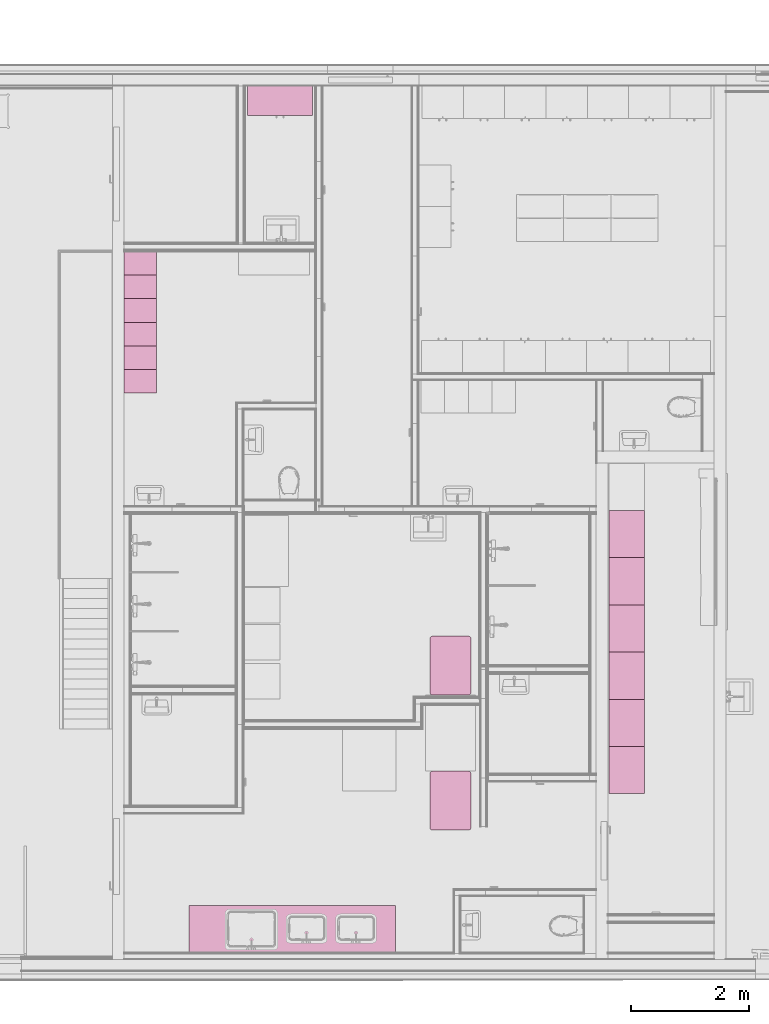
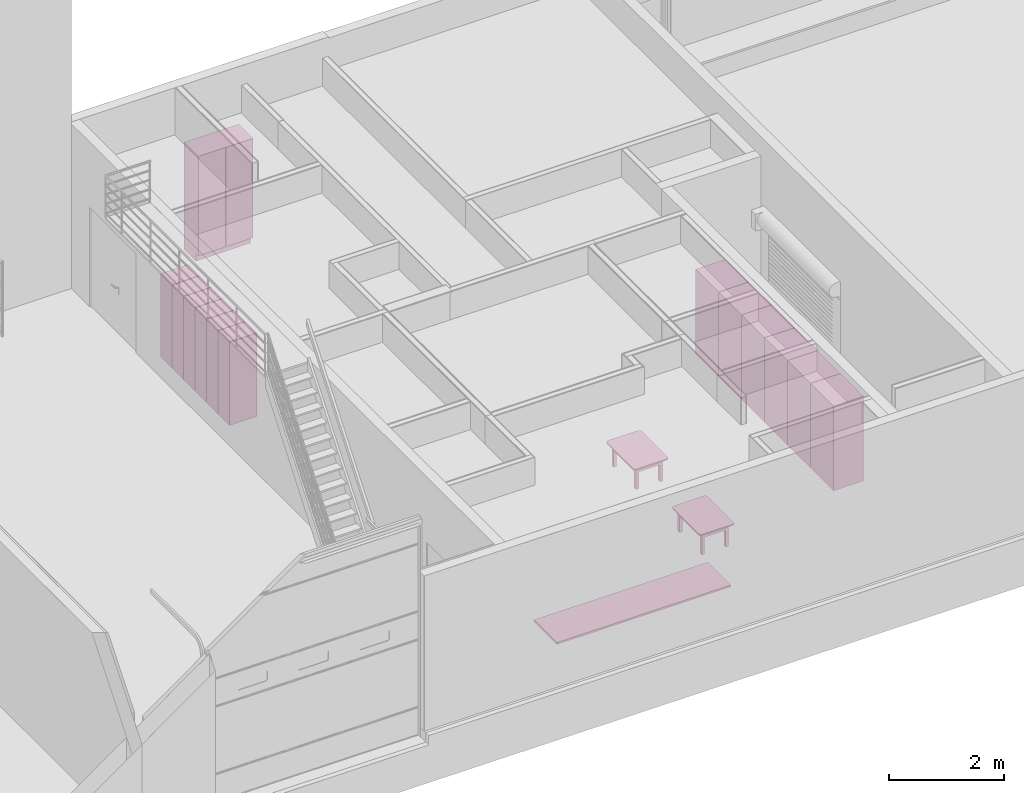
# One storey, part 32 of 67: 16 furniture elements.
"""IFC4 building model written with IfcOpenShell, lengths in millimetres."""

import ifcopenshell
import ifcopenshell.guid

model = None  # the IFC model being written
_history = None  # IfcOwnerHistory: only IFC2X3 demands one
_inside = {}  # id of a spatial element -> (the spatial element, [elements in it])
_under = {}  # id of a project, library or spatial element -> (it, [spatial elements below it])
_declared = {}  # id of a project -> (the project, [libraries it declares])
_typed = {}  # id of a type object -> (the type object, [elements of that type])
_made_of = {}  # id of a material, layer set ... -> (it, [elements and type objects made of it])


def new_model(schema):
    """Start an empty IFC model of exactly this schema.

    Asked for "IFC4X3", IfcOpenShell would pick the latest addendum, in which some entities
    have other attributes; the version numbers below select the first issue.
    IFC2X3 requires an IfcOwnerHistory on every rooted entity: one is made here for all.
    """
    global model, _history
    if schema == "IFC4X3":
        model = ifcopenshell.file(schema_version=(4, 3, 0, 0))
    else:
        model = ifcopenshell.file(schema=schema)
    _inside.clear()
    _under.clear()
    _declared.clear()
    _typed.clear()
    _made_of.clear()
    _history = None
    if model.schema == "IFC2X3":
        org = make("IfcOrganization", Name="unknown")
        user = make(
            "IfcPersonAndOrganization",
            ThePerson=make("IfcPerson", FamilyName="unknown"),
            TheOrganization=org,
        )
        app = make(
            "IfcApplication",
            ApplicationDeveloper=org,
            Version="unknown",
            ApplicationFullName="unknown",
            ApplicationIdentifier="unknown",
        )
        _history = make(
            "IfcOwnerHistory",
            OwningUser=user,
            OwningApplication=app,
            ChangeAction="ADDED",
            CreationDate=0,
        )
    return model


def make(cls, **values):
    """One entity of the class cls with the attributes given. An attribute that is None is left unset."""
    return model.create_entity(
        cls, **{name: value for name, value in values.items() if value is not None}
    )


def entity(cls, *values):
    """Any entity or typed value of the class cls, its attributes in the order of the schema. None: left unset."""
    e = model.create_entity(cls)
    for i, value in enumerate(values):
        if value is not None:
            e[i] = value
    return e


def rooted(cls, **values):
    """An entity with a GlobalId (a new one), such as an element, a storey or a relation."""
    return make(cls, GlobalId=ifcopenshell.guid.new(), OwnerHistory=_history, **values)


def si_unit(unit_type, name, prefix=None):
    """IfcSIUnit, for example si_unit("LENGTHUNIT", "METRE", prefix="MILLI")."""
    return make("IfcSIUnit", UnitType=unit_type, Prefix=prefix, Name=name)


def converted_unit(unit_type, name, factor, base, dimensions=None, offset=None):
    """IfcConversionBasedUnit, such as the inch: factor (a typed value) times the base unit."""
    return make(
        "IfcConversionBasedUnit"
        if offset is None
        else "IfcConversionBasedUnitWithOffset",
        ConversionOffset=offset,
        Dimensions=None
        if dimensions is None
        else entity("IfcDimensionalExponents", *dimensions),
        UnitType=unit_type,
        Name=name,
        ConversionFactor=make(
            "IfcMeasureWithUnit", ValueComponent=factor, UnitComponent=base
        ),
    )


def assignment(units):
    """IfcUnitAssignment: the units of a project."""
    return None if units is None else make("IfcUnitAssignment", Units=units)


def point(xyz):
    """IfcCartesianPoint."""
    return None if xyz is None else make("IfcCartesianPoint", Coordinates=xyz)


def direction(xyz):
    """IfcDirection."""
    return None if xyz is None else make("IfcDirection", DirectionRatios=xyz)


def frame(location, z_axis=None, x_axis=None):
    """IfcAxis2Placement3D, a coordinate frame: its origin and axes. An axis left out is left unset."""
    return make(
        "IfcAxis2Placement3D",
        Location=point(location),
        Axis=direction(z_axis),
        RefDirection=direction(x_axis),
    )


def origin():
    """The frame at (0, 0, 0) with its axes left unset."""
    return frame((0.0, 0.0, 0.0))


def place(relative_to, where):
    """IfcLocalPlacement: puts the frame where relative to a parent placement (None: the world)."""
    return make(
        "IfcLocalPlacement", PlacementRelTo=relative_to, RelativePlacement=where
    )


def context(
    kind, dimensions, precision=None, world=None, true_north=None, identifier=None
):
    """IfcGeometricRepresentationContext, for example the 3D "Model" context."""
    return make(
        "IfcGeometricRepresentationContext",
        ContextIdentifier=identifier,
        ContextType=kind,
        CoordinateSpaceDimension=dimensions,
        Precision=precision,
        WorldCoordinateSystem=world,
        TrueNorth=true_north,
    )


def subcontext(parent, identifier, kind, view, scale=None):
    """IfcGeometricRepresentationSubContext, for example "Body" below "Model"."""
    return make(
        "IfcGeometricRepresentationSubContext",
        ContextIdentifier=identifier,
        ContextType=kind,
        ParentContext=parent,
        TargetScale=scale,
        TargetView=view,
    )


def project(units=None, contexts=None):
    """IfcProject with its units and contexts."""
    return rooted(
        "IfcProject",
        Name="project",
        RepresentationContexts=contexts,
        UnitsInContext=assignment(units),
    )


def spatial(cls, under=None, at=None, **own):
    """A site, building, storey or space (cls), placed at a placement, below another one or the project."""
    s = rooted(cls, ObjectPlacement=at, **own)
    if under is not None:
        _under.setdefault(under.id(), (under, []))[1].append(s)
    return s


def point_list(points):
    """IfcCartesianPointList2D or 3D."""
    cls = (
        "IfcCartesianPointList2D" if len(points[0]) == 2 else "IfcCartesianPointList3D"
    )
    return make(cls, CoordList=points)


def line(*indices):
    """IfcLineIndex: a straight run through numbered points of an indexed curve."""
    return model.create_entity("IfcLineIndex", indices)


def arc(*indices):
    """IfcArcIndex: an arc through three numbered points of an indexed curve."""
    return model.create_entity("IfcArcIndex", indices)


def indexed_curve(points, segments=None, self_intersect=None):
    """IfcIndexedPolyCurve: lines and arcs through numbered points (the first is 1)."""
    return make(
        "IfcIndexedPolyCurve",
        Points=point_list(points),
        Segments=segments,
        SelfIntersect=self_intersect,
    )


def outline(outer, holes=None, kind="AREA"):
    """IfcArbitraryClosedProfileDef: a profile drawn as a closed curve; with holes, ...WithVoids."""
    if holes is None:
        return make("IfcArbitraryClosedProfileDef", ProfileType=kind, OuterCurve=outer)
    return make(
        "IfcArbitraryProfileDefWithVoids",
        ProfileType=kind,
        OuterCurve=outer,
        InnerCurves=holes,
    )


def extrude(swept, where, along, depth):
    """IfcExtrudedAreaSolid: the profile swept, set in the frame where, extruded along a direction by depth."""
    return make(
        "IfcExtrudedAreaSolid",
        SweptArea=swept,
        Position=where,
        ExtrudedDirection=direction(along),
        Depth=depth,
    )


def polygons(points, faces, closed=None, point_numbers=None):
    """IfcPolygonalFaceSet: a face is its outer loop, then its inner loops; points numbered from 1."""
    made = []
    for loops in faces:
        if len(loops) == 1:
            made.append(make("IfcIndexedPolygonalFace", CoordIndex=loops[0]))
        else:
            made.append(
                make(
                    "IfcIndexedPolygonalFaceWithVoids",
                    CoordIndex=loops[0],
                    InnerCoordIndices=loops[1:],
                )
            )
    return make(
        "IfcPolygonalFaceSet",
        Coordinates=point_list(points),
        Closed=closed,
        Faces=made,
        PnIndex=point_numbers,
    )


def shape(context_of_items, identifier, shape_type, items):
    """IfcShapeRepresentation: the items that make up one representation, for example the "Body"."""
    return make(
        "IfcShapeRepresentation",
        ContextOfItems=context_of_items,
        RepresentationIdentifier=identifier,
        RepresentationType=shape_type,
        Items=items,
    )


def source(mapping_origin, context_of_items, identifier, shape_type, items):
    """IfcRepresentationMap: a shape defined once, which mapped items show again and again."""
    return make(
        "IfcRepresentationMap",
        MappingOrigin=mapping_origin,
        MappedRepresentation=shape(context_of_items, identifier, shape_type, items),
    )


def transform(
    local_origin,
    x_axis=None,
    y_axis=None,
    z_axis=None,
    scale=None,
    scale2=None,
    scale3=None,
    uniform=True,
):
    """IfcCartesianTransformationOperator3D, or its non-uniform kind. x_axis, y_axis, z_axis: its Axis1, 2, 3."""
    if uniform:
        return make(
            "IfcCartesianTransformationOperator3D",
            Axis1=direction(x_axis),
            Axis2=direction(y_axis),
            LocalOrigin=point(local_origin),
            Scale=scale,
            Axis3=direction(z_axis),
        )
    return make(
        "IfcCartesianTransformationOperator3DnonUniform",
        Axis1=direction(x_axis),
        Axis2=direction(y_axis),
        LocalOrigin=point(local_origin),
        Scale=scale,
        Axis3=direction(z_axis),
        Scale2=scale2,
        Scale3=scale3,
    )


def mapped(mapping_source, mapping_target):
    """IfcMappedItem: shows the shape of a source again, moved by a transform."""
    return make(
        "IfcMappedItem", MappingSource=mapping_source, MappingTarget=mapping_target
    )


def material(Name=None, Category=None):
    """IfcMaterial."""
    return make("IfcMaterial", Name=Name, Category=Category)


def constituent(of_material, Name=None, Category=None, fraction=None):
    """IfcMaterialConstituent: one of the materials an element consists of."""
    return make(
        "IfcMaterialConstituent",
        Name=Name,
        Material=of_material,
        Fraction=fraction,
        Category=Category,
    )


def constituent_set(constituents=None, Name=None):
    """IfcMaterialConstituentSet."""
    return make(
        "IfcMaterialConstituentSet", Name=Name, MaterialConstituents=constituents
    )


def made_of(thing, what):
    """Note that an element or type object is made of a material, layer set ...; save() writes the relation."""
    if what is not None:
        _made_of.setdefault(what.id(), (what, []))[1].append(thing)
    return thing


def type_object(cls, material=None, **own):
    """A type object (cls), such as IfcWallType, which elements share."""
    return made_of(rooted(cls, **own), material)


def type_shapes(of_type, sources):
    """Give a type object the sources (RepresentationMaps) that its elements show as mapped items."""
    of_type.RepresentationMaps = sources


def element(
    cls,
    number,
    at=None,
    inside=None,
    cuts=None,
    type_object=None,
    material=None,
    context=None,
    identifier="Body",
    shape_type=None,
    held_by="IfcProductDefinitionShape",
    body=None,
    shapes=None,
    **own,
):
    """One element of the class cls, such as IfcWall. Its Tag is "e" and its number.

    at: its placement. inside: the storey or other place that contains it. cuts: it is an
    opening in that element (IfcRelVoidsElement). A single representation is given by context,
    identifier, shape_type and body (its items); several are given by shapes. held_by: the class
    of the entity that holds the representations. save() writes the other relations.
    """
    e = rooted(cls, Tag="e%d" % number, ObjectPlacement=at, **own)
    if body is not None:
        shapes = [shape(context, identifier, shape_type, body)]
    if shapes is not None:
        e.Representation = make(held_by, Representations=shapes)
    if inside is not None:
        _inside.setdefault(inside.id(), (inside, []))[1].append(e)
    if cuts is not None:
        rooted(
            "IfcRelVoidsElement", RelatingBuildingElement=cuts, RelatedOpeningElement=e
        )
    if type_object is not None:
        _typed.setdefault(type_object.id(), (type_object, []))[1].append(e)
    return made_of(e, material)


def aggregate(whole, parts):
    """IfcRelAggregates: a whole, such as a stair, and the parts it consists of."""
    return rooted("IfcRelAggregates", RelatingObject=whole, RelatedObjects=parts)


def save(model, path):
    """Write the relations noted so far, then the file.

    IfcRelAggregates (storeys below a building ...), IfcRelContainedInSpatialStructure (elements
    in a storey), IfcRelDefinesByType, IfcRelAssociatesMaterial and IfcRelDeclares: one each for
    every whole, place, type object, material and project.
    """
    for whole, parts in _under.values():
        aggregate(whole, parts)
    for where, things in _inside.values():
        rooted(
            "IfcRelContainedInSpatialStructure",
            RelatedElements=things,
            RelatingStructure=where,
        )
    for kind, things in _typed.values():
        rooted("IfcRelDefinesByType", RelatedObjects=things, RelatingType=kind)
    for what, things in _made_of.values():
        rooted("IfcRelAssociatesMaterial", RelatedObjects=things, RelatingMaterial=what)
    for by, libraries in _declared.values():
        rooted("IfcRelDeclares", RelatingContext=by, RelatedDefinitions=libraries)
    model.write(path)


model = new_model("IFC4")

# Units and contexts
model_context = context("Model", 3, precision=0.01, world=origin(), true_north=direction((0.0, 1.0)))
body_context = subcontext(model_context, "Body", "Model", "MODEL_VIEW")
ifc_project = project(units=[si_unit("LENGTHUNIT", "METRE", prefix="MILLI"), si_unit("AREAUNIT", "SQUARE_METRE"), si_unit("VOLUMEUNIT", "CUBIC_METRE"), converted_unit("PLANEANGLEUNIT", "DEGREE", entity("IfcPlaneAngleMeasure", 0.017453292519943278), si_unit("PLANEANGLEUNIT", "RADIAN"), dimensions=[0, 0, 0, 0, 0, 0, 0])], contexts=[model_context])

# Site, building, storey, space
site_placement = place(None, origin())
site = spatial("IfcSite", under=ifc_project, at=site_placement, Name="Tomtens navn", CompositionType="ELEMENT")
building_placement = place(site_placement, origin())
building = spatial("IfcBuilding", under=site, at=building_placement, Name="Byggets navn", CompositionType="ELEMENT")
storey_placement = place(building_placement, origin())
storey = spatial("IfcBuildingStorey", under=building, at=storey_placement, Name="Level 01", CompositionType="ELEMENT", Elevation=2.1993652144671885e-25)
space_1_placement = place(storey_placement, origin())
space_1 = spatial("IfcSpace", under=storey, at=space_1_placement, Name="103", CompositionType="ELEMENT", PredefinedType="NOTDEFINED")

# Furniture
ifc_material_1 = material(Name="Paint - Grey", Category="Paint")
ifc_constituent_1 = constituent(ifc_material_1, Name="Paint - Grey", Category="Paint", fraction=0.9248749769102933)
ifc_material_2 = material(Name="Paint - White", Category="Paint")
ifc_constituent_2 = constituent(ifc_material_2, Name="Paint - White", Category="Paint", fraction=0.07512502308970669)
ifc_constituent_set_1 = constituent_set(constituents=[ifc_constituent_1, ifc_constituent_2])
ifc_constituent_3 = constituent(ifc_material_1, Name="Locker", Category="Paint", fraction=0.7554955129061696)
ifc_constituent_4 = constituent(ifc_material_2, Name="Locker", Category="Paint", fraction=0.24450448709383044)
ifc_constituent_set_2 = constituent_set(constituents=[ifc_constituent_3, ifc_constituent_4])
furniture_type_1 = type_object("IfcFurnitureType", Name="^ 275_Public_Locker02 x2 w Bench:300x300+200", AssemblyPlace="NOTDEFINED", PredefinedType="NOTDEFINED", material=ifc_constituent_set_2)
shared_shape_1 = source(origin(), body_context, "Body", "Tessellation", [
    polygons([(45.821319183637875, 150.0000000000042, 250.00000000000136), (45.821319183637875, 700.0000000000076, 249.99999999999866), (45.821319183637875, 700.0000000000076, 2024.9999999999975), (45.821319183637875, 150.0000000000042, 2024.9999999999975), (-354.178680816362, 150.0000000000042, 250.00000000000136), (-354.178680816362, 150.0000000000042, 2024.9999999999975), (-354.178680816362, 700.0000000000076, 2024.9999999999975), (-354.178680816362, 700.0000000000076, 249.99999999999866), (30.82131918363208, 150.0000000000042, 265.0000000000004), (-339.1786808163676, 150.0000000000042, 265.0000000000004), (-339.1786808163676, 150.0000000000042, 1122.4999999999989), (30.82131918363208, 150.0000000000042, 1122.4999999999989), (30.8213191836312, 150.0000000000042, 1152.4999999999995), (-339.17868081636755, 150.0000000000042, 1152.4999999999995), (-339.17868081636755, 150.0000000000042, 2009.9999999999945), (30.8213191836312, 150.0000000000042, 2009.9999999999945), (30.82131918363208, 584.9999999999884, 265.0000000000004), (-339.1786808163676, 584.9999999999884, 265.0000000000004), (-339.1786808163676, 584.9999999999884, 1122.4999999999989), (30.82131918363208, 584.9999999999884, 1122.4999999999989), (30.8213191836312, 584.9999999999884, 1152.4999999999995), (-339.17868081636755, 584.9999999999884, 1152.4999999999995), (-339.17868081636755, 584.9999999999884, 2009.9999999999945), (30.8213191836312, 584.9999999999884, 2009.9999999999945)], [[[1, 2, 3, 4]], [[5, 6, 7, 8]], [[2, 1, 5, 8]], [[3, 2, 8, 7]], [[4, 3, 7, 6]], [[1, 4, 6, 5], [9, 10, 11, 12], [13, 14, 15, 16]], [[17, 18, 10, 9]], [[18, 19, 11, 10]], [[19, 20, 12, 11]], [[20, 17, 9, 12]], [[21, 22, 14, 13]], [[22, 23, 15, 14]], [[23, 24, 16, 15]], [[24, 21, 13, 16]], [[17, 20, 19, 18]], [[21, 24, 23, 22]]], closed=True),
    polygons([(27.821319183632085, 150.00000000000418, 2006.9999999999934), (-336.1786808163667, 150.00000000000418, 2006.9999999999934), (-336.1786808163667, 150.00000000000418, 1155.4999999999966), (27.821319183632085, 150.00000000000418, 1155.4999999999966), (27.821319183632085, 165.00000000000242, 2006.9999999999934), (27.821319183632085, 165.00000000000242, 1155.4999999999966), (-336.1786808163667, 165.00000000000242, 1155.4999999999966), (-336.1786808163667, 165.00000000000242, 2006.9999999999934)], [[[1, 2, 3, 4]], [[5, 6, 7, 8]], [[2, 1, 5, 8]], [[3, 2, 8, 7]], [[4, 3, 7, 6]], [[1, 4, 6, 5]]], closed=True),
    polygons([(-336.17868081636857, 150.00000000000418, 1119.4999999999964), (27.821319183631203, 150.00000000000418, 1119.4999999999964), (27.821319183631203, 165.00000000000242, 1119.4999999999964), (-336.17868081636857, 165.00000000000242, 1119.4999999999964), (-336.17868081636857, 150.00000000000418, 268.0000000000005), (-336.17868081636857, 165.00000000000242, 268.0000000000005), (27.821319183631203, 150.00000000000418, 268.0000000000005), (27.821319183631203, 165.00000000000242, 268.0000000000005)], [[[1, 2, 3, 4]], [[5, 1, 4, 6]], [[7, 5, 6, 8]], [[2, 7, 8, 3]], [[3, 8, 6, 4]], [[2, 1, 5, 7]]], closed=True),
    polygons([(-317.05457618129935, 150.00000000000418, 693.7499999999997), (-316.6286490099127, 150.00000000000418, 696.9852380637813), (-315.3798937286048, 150.00000000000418, 699.9999999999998), (-313.3934109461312, 150.00000000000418, 702.5888347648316), (-310.80457618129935, 150.00000000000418, 704.5753175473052), (-307.7898142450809, 150.00000000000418, 705.824072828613), (-304.55457618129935, 150.00000000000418, 706.2499999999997), (-301.3193381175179, 150.00000000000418, 705.824072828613), (-298.30457618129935, 150.00000000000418, 704.5753175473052), (-295.7157414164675, 150.00000000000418, 702.5888347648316), (-293.7292586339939, 150.00000000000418, 699.9999999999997), (-292.480503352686, 150.00000000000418, 696.9852380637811), (-292.05457618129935, 150.00000000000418, 693.7499999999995), (-292.480503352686, 150.00000000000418, 690.5147619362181), (-293.72925863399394, 150.00000000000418, 687.4999999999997), (-295.7157414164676, 150.00000000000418, 684.9111652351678), (-298.30457618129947, 150.00000000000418, 682.9246824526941), (-301.31933811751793, 150.00000000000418, 681.6759271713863), (-304.55457618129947, 150.00000000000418, 681.2499999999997), (-307.78981424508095, 150.00000000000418, 681.6759271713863), (-310.80457618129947, 150.00000000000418, 682.9246824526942), (-313.39341094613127, 150.00000000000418, 684.9111652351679), (-315.3798937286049, 150.00000000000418, 687.4999999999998), (-316.6286490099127, 150.00000000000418, 690.5147619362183), (-317.05457618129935, 147.00000000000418, 693.7499999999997), (-316.6286490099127, 147.00000000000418, 690.5147619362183), (-315.3798937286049, 147.00000000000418, 687.4999999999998), (-313.39341094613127, 147.00000000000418, 684.9111652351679), (-310.80457618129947, 147.00000000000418, 682.9246824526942), (-307.78981424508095, 147.00000000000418, 681.6759271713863), (-304.55457618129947, 147.00000000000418, 681.2499999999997), (-301.31933811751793, 147.00000000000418, 681.6759271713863), (-298.30457618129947, 147.00000000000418, 682.9246824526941), (-295.7157414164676, 147.00000000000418, 684.9111652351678), (-293.72925863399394, 147.00000000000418, 687.4999999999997), (-292.480503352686, 147.00000000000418, 690.5147619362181), (-292.05457618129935, 147.00000000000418, 693.7499999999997), (-292.480503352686, 147.00000000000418, 696.9852380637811), (-293.7292586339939, 147.00000000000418, 699.9999999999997), (-295.7157414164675, 147.00000000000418, 702.5888347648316), (-298.30457618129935, 147.00000000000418, 704.5753175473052), (-301.3193381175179, 147.00000000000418, 705.824072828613), (-304.55457618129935, 147.00000000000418, 706.2499999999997), (-307.7898142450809, 147.00000000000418, 705.824072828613), (-310.80457618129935, 147.00000000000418, 704.5753175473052), (-313.3934109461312, 147.00000000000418, 702.5888347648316), (-315.3798937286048, 147.00000000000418, 699.9999999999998), (-316.6286490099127, 147.00000000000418, 696.9852380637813)], [[[6, 7, 8, 9, 10, 11, 12, 13, 14, 15, 16, 17, 18, 19, 20, 21, 22, 23, 24, 1, 2, 3, 4, 5]], [[32, 33, 34, 35, 36, 37, 38, 39, 40, 41, 42, 43, 44, 45, 46, 47, 48, 25, 26, 27, 28, 29, 30, 31]], [[24, 26, 25, 1]], [[23, 27, 26, 24]], [[29, 28, 22, 21]], [[23, 22, 28, 27]], [[30, 29, 21, 20]], [[31, 30, 20, 19]], [[18, 32, 31, 19]], [[17, 33, 32, 18]], [[35, 34, 16, 15]], [[17, 16, 34, 33]], [[36, 35, 15, 14]], [[37, 36, 14, 13]], [[12, 38, 37, 13]], [[11, 39, 38, 12]], [[41, 40, 10, 9]], [[11, 10, 40, 39]], [[42, 41, 9, 8]], [[43, 42, 8, 7]], [[6, 44, 43, 7]], [[5, 45, 44, 6]], [[47, 46, 4, 3]], [[5, 4, 46, 45]], [[48, 47, 3, 2]], [[25, 48, 2, 1]]], closed=True),
    polygons([(-317.05457618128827, 147.00000000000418, 1581.2499999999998), (-316.6286490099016, 147.00000000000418, 1578.0147619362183), (-315.3798937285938, 147.00000000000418, 1574.9999999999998), (-313.3934109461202, 147.00000000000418, 1572.4111652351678), (-310.8045761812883, 147.00000000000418, 1570.4246824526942), (-307.78981424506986, 147.00000000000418, 1569.1759271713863), (-304.5545761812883, 147.00000000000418, 1568.7499999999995), (-301.31933811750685, 147.00000000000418, 1569.1759271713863), (-298.3045761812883, 147.00000000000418, 1570.4246824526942), (-295.71574141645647, 147.00000000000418, 1572.4111652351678), (-293.72925863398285, 147.00000000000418, 1574.9999999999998), (-292.48050335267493, 147.00000000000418, 1578.0147619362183), (-292.05457618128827, 147.00000000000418, 1581.2499999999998), (-292.48050335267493, 147.00000000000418, 1584.4852380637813), (-293.7292586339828, 147.00000000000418, 1587.4999999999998), (-295.7157414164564, 147.00000000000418, 1590.0888347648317), (-298.30457618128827, 147.00000000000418, 1592.0753175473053), (-301.31933811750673, 147.00000000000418, 1593.3240728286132), (-304.55457618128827, 147.00000000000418, 1593.75), (-307.7898142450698, 147.00000000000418, 1593.3240728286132), (-310.80457618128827, 147.00000000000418, 1592.0753175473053), (-313.3934109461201, 147.00000000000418, 1590.0888347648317), (-315.37989372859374, 147.00000000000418, 1587.4999999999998), (-316.6286490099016, 147.00000000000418, 1584.4852380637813), (-317.05457618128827, 150.00000000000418, 1581.2499999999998), (-316.6286490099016, 150.00000000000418, 1584.4852380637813), (-315.37989372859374, 150.00000000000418, 1587.4999999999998), (-313.3934109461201, 150.00000000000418, 1590.0888347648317), (-310.80457618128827, 150.00000000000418, 1592.0753175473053), (-307.7898142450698, 150.00000000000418, 1593.3240728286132), (-304.55457618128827, 150.00000000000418, 1593.75), (-301.31933811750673, 150.00000000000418, 1593.3240728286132), (-298.30457618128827, 150.00000000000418, 1592.0753175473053), (-295.7157414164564, 150.00000000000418, 1590.0888347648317), (-293.7292586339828, 150.00000000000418, 1587.4999999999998), (-292.48050335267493, 150.00000000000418, 1584.4852380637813), (-292.05457618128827, 150.00000000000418, 1581.2499999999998), (-292.48050335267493, 150.00000000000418, 1578.0147619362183), (-293.72925863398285, 150.00000000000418, 1574.9999999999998), (-295.71574141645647, 150.00000000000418, 1572.4111652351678), (-298.3045761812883, 150.00000000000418, 1570.4246824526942), (-301.31933811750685, 150.00000000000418, 1569.1759271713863), (-304.5545761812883, 150.00000000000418, 1568.7499999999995), (-307.78981424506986, 150.00000000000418, 1569.1759271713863), (-310.8045761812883, 150.00000000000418, 1570.4246824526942), (-313.3934109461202, 150.00000000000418, 1572.4111652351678), (-315.3798937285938, 150.00000000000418, 1574.9999999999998), (-316.6286490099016, 150.00000000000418, 1578.0147619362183)], [[[9, 10, 11, 12, 13, 14, 15, 16, 17, 18, 19, 20, 21, 22, 23, 24, 1, 2, 3, 4, 5, 6, 7, 8]], [[33, 34, 35, 36, 37, 38, 39, 40, 41, 42, 43, 44, 45, 46, 47, 48, 25, 26, 27, 28, 29, 30, 31, 32]], [[48, 2, 1, 25]], [[47, 3, 2, 48]], [[5, 4, 46, 45]], [[47, 46, 4, 3]], [[6, 5, 45, 44]], [[7, 6, 44, 43]], [[42, 8, 7, 43]], [[41, 9, 8, 42]], [[11, 10, 40, 39]], [[41, 40, 10, 9]], [[12, 11, 39, 38]], [[13, 12, 38, 37]], [[36, 14, 13, 37]], [[35, 15, 14, 36]], [[17, 16, 34, 33]], [[35, 34, 16, 15]], [[18, 17, 33, 32]], [[19, 18, 32, 31]], [[30, 20, 19, 31]], [[29, 21, 20, 30]], [[23, 22, 28, 27]], [[29, 28, 22, 21]], [[24, 23, 27, 26]], [[1, 24, 26, 25]]], closed=True),
])
type_shapes(furniture_type_1, [shared_shape_1])
furniture_1_placement = place(space_1_placement, frame((59322.85352810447, 20008.645137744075, -100.0), z_axis=(0.0, 0.0, 1.0), x_axis=(0.0, 1.0, 0.0)))
element("IfcFurniture", 1, at=furniture_1_placement, inside=space_1, type_object=furniture_type_1, material=ifc_constituent_set_1, Name="^ 275_Public_Locker02 x2 w Bench:300x300+200", PredefinedType="NOTDEFINED", context=body_context, shape_type="MappedRepresentation", body=[
    mapped(shared_shape_1, transform((0.0, 0.0, 0.0), scale=1.0)),
])
ifc_constituent_5 = constituent(ifc_material_1, Name="Paint - Grey", Category="Paint", fraction=0.9248749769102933)
ifc_constituent_6 = constituent(ifc_material_2, Name="Paint - White", Category="Paint", fraction=0.07512502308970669)
ifc_constituent_set_3 = constituent_set(constituents=[ifc_constituent_5, ifc_constituent_6])
furniture_2_placement = place(space_1_placement, frame((59322.853528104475, 18808.64513774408, -100.0), z_axis=(0.0, 0.0, 1.0), x_axis=(0.0, 1.0, 0.0)))
element("IfcFurniture", 2, at=furniture_2_placement, inside=space_1, type_object=furniture_type_1, material=ifc_constituent_set_3, Name="^ 275_Public_Locker02 x2 w Bench:300x300+200", PredefinedType="NOTDEFINED", context=body_context, shape_type="MappedRepresentation", body=[
    mapped(shared_shape_1, transform((0.0, 0.0, 0.0), scale=1.0)),
])
ifc_constituent_7 = constituent(ifc_material_1, Name="Paint - Grey", Category="Paint", fraction=0.9248749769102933)
ifc_constituent_8 = constituent(ifc_material_2, Name="Paint - White", Category="Paint", fraction=0.07512502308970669)
ifc_constituent_set_4 = constituent_set(constituents=[ifc_constituent_7, ifc_constituent_8])
furniture_3_placement = place(space_1_placement, frame((59322.853528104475, 18408.64513774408, -100.0), z_axis=(0.0, 0.0, 1.0), x_axis=(0.0, 1.0, 0.0)))
element("IfcFurniture", 3, at=furniture_3_placement, inside=space_1, type_object=furniture_type_1, material=ifc_constituent_set_4, Name="^ 275_Public_Locker02 x2 w Bench:300x300+200", PredefinedType="NOTDEFINED", context=body_context, shape_type="MappedRepresentation", body=[
    mapped(shared_shape_1, transform((0.0, 0.0, 0.0), scale=1.0)),
])
ifc_constituent_9 = constituent(ifc_material_1, Name="Paint - Grey", Category="Paint", fraction=0.9248749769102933)
ifc_constituent_10 = constituent(ifc_material_2, Name="Paint - White", Category="Paint", fraction=0.07512502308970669)
ifc_constituent_set_5 = constituent_set(constituents=[ifc_constituent_9, ifc_constituent_10])
furniture_4_placement = place(space_1_placement, frame((59322.85352810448, 18008.64513774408, -100.0), z_axis=(0.0, 0.0, 1.0), x_axis=(0.0, 1.0, 0.0)))
element("IfcFurniture", 4, at=furniture_4_placement, inside=space_1, type_object=furniture_type_1, material=ifc_constituent_set_5, Name="^ 275_Public_Locker02 x2 w Bench:300x300+200", PredefinedType="NOTDEFINED", context=body_context, shape_type="MappedRepresentation", body=[
    mapped(shared_shape_1, transform((0.0, 0.0, 0.0), scale=1.0)),
])
ifc_constituent_11 = constituent(ifc_material_1, Name="Paint - Grey", Category="Paint", fraction=0.9248749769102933)
ifc_constituent_12 = constituent(ifc_material_2, Name="Paint - White", Category="Paint", fraction=0.07512502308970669)
ifc_constituent_set_6 = constituent_set(constituents=[ifc_constituent_11, ifc_constituent_12])
furniture_5_placement = place(space_1_placement, frame((59322.853528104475, 19208.64513774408, -100.0), z_axis=(0.0, 0.0, 1.0), x_axis=(0.0, 1.0, 0.0)))
element("IfcFurniture", 5, at=furniture_5_placement, inside=space_1, type_object=furniture_type_1, material=ifc_constituent_set_6, Name="^ 275_Public_Locker02 x2 w Bench:300x300+200", PredefinedType="NOTDEFINED", context=body_context, shape_type="MappedRepresentation", body=[
    mapped(shared_shape_1, transform((0.0, 0.0, 0.0), scale=1.0)),
])
ifc_constituent_13 = constituent(ifc_material_1, Name="Paint - Grey", Category="Paint", fraction=0.9248749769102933)
ifc_constituent_14 = constituent(ifc_material_2, Name="Paint - White", Category="Paint", fraction=0.07512502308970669)
ifc_constituent_set_7 = constituent_set(constituents=[ifc_constituent_13, ifc_constituent_14])
furniture_6_placement = place(space_1_placement, frame((59322.85352810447, 19608.645137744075, -100.0), z_axis=(0.0, 0.0, 1.0), x_axis=(0.0, 1.0, 0.0)))
element("IfcFurniture", 6, at=furniture_6_placement, inside=space_1, type_object=furniture_type_1, material=ifc_constituent_set_7, Name="^ 275_Public_Locker02 x2 w Bench:300x300+200", PredefinedType="NOTDEFINED", context=body_context, shape_type="MappedRepresentation", body=[
    mapped(shared_shape_1, transform((0.0, 0.0, 0.0), scale=1.0)),
])

# Space
space_2_placement = place(storey_placement, origin())
space_2 = spatial("IfcSpace", under=storey, at=space_2_placement, Name="111", CompositionType="ELEMENT", PredefinedType="NOTDEFINED")

# Furniture
ifc_material_3 = material(Name="Counter Top", Category="Unassigned")
furniture_type_2 = type_object("IfcFurnitureType", Name="Worktop:800mm Depth uten vask", AssemblyPlace="NOTDEFINED", PredefinedType="NOTDEFINED", material=ifc_material_3)
shared_shape_2 = source(origin(), body_context, "Body", "SweptSolid", [
    extrude(outline(indexed_curve([(-399.99999999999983, -1750.0000000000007), (399.99999999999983, -1750.0000000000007), (399.99999999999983, 1750.0000000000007), (-399.99999999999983, 1750.0000000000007), (-399.99999999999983, -1750.0000000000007)], self_intersect=False)), frame((549.5377049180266, 400.0, 860.0), z_axis=(0.0, 0.0, 1.0), x_axis=(0.0, 1.0, 0.0)), (0.0, 0.0, 1.0), 40.000000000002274),
])
type_shapes(furniture_type_2, [shared_shape_2])
furniture_7_placement = place(space_2_placement, frame((60926.47318463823, 8173.466456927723, 0.0)))
element("IfcFurniture", 7, at=furniture_7_placement, inside=space_2, type_object=furniture_type_2, material=ifc_material_3, Name="Worktop:800mm Depth uten vask", PredefinedType="NOTDEFINED", context=body_context, shape_type="MappedRepresentation", body=[
    mapped(shared_shape_2, transform((0.0, 0.0, 0.0), scale=1.0)),
])
ifc_material_4 = material(Name="<Unnamed>")
furniture_type_3 = type_object("IfcFurnitureType", Name="Table_01:H500 D700 W1200", AssemblyPlace="NOTDEFINED", PredefinedType="NOTDEFINED", material=ifc_material_4)
shared_shape_3 = source(origin(), body_context, "Body", "SweptSolid", [
    extrude(outline(indexed_curve([(-30.000000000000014, -30.000000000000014), (30.000000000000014, -30.000000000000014), (30.000000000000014, 29.999999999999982), (-30.000000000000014, 29.999999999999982), (-30.000000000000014, -30.000000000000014)], self_intersect=False)), frame((-321.1869889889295, -368.82777616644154, 0.0), z_axis=(0.0, 0.0, 1.0), x_axis=(0.0, -1.0, 0.0)), (0.0, 0.0, 1.0), 475.00000000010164),
    extrude(outline(indexed_curve([(-30.000000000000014, -30.0), (29.999999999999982, -30.0), (29.999999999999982, 30.0), (-30.000000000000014, 30.0), (-30.000000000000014, -30.0)], self_intersect=False)), frame((-321.1869889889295, 111.17222383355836, 0.0)), (0.0, 0.0, 1.0), 475.00000000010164),
    extrude(outline(indexed_curve([(-30.0, -30.000000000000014), (30.0, -30.000000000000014), (30.0, 30.000000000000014), (-30.0, 30.000000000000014), (-30.0, -30.000000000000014)], self_intersect=False)), frame((458.8130110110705, 111.17222383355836, 0.0), z_axis=(0.0, 0.0, 1.0), x_axis=(0.0, 1.0, 0.0)), (0.0, 0.0, 1.0), 475.00000000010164),
    extrude(outline(indexed_curve([(-30.00000000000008, -30.000000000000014), (29.999999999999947, -30.000000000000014), (29.999999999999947, 30.000000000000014), (-30.00000000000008, 30.000000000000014), (-30.00000000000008, -30.000000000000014)], self_intersect=False)), frame((458.8130110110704, -368.82777616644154, 0.0), z_axis=(0.0, 0.0, 1.0), x_axis=(-1.0, 0.0, 0.0)), (0.0, 0.0, 1.0), 475.00000000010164),
    extrude(outline(indexed_curve([(-10.000000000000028, -360.0), (9.999999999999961, -360.0), (9.999999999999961, 360.0), (-10.000000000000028, 360.0), (-10.000000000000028, -360.0)], self_intersect=False)), frame((68.81301101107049, -388.82777616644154, 355.0), z_axis=(0.0, 0.0, 1.0), x_axis=(0.0, 1.0, 0.0)), (0.0, 0.0, 1.0), 120.0),
    extrude(outline(indexed_curve([(-9.999999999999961, -360.0), (9.999999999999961, -360.0), (9.999999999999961, 360.0), (-9.999999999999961, 360.0), (-9.999999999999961, -360.0)], self_intersect=False)), frame((68.81301101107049, 131.17222383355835, 355.0), z_axis=(0.0, 0.0, 1.0), x_axis=(0.0, 1.0, 0.0)), (0.0, 0.0, 1.0), 120.0),
    extrude(outline(indexed_curve([(-209.99999999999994, -9.999999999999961), (209.99999999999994, -9.999999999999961), (209.99999999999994, 10.000000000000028), (-209.99999999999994, 10.000000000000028), (-209.99999999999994, -9.999999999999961)], self_intersect=False)), frame((478.81301101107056, -128.8277761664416, 355.0), z_axis=(0.0, 0.0, 1.0), x_axis=(0.0, 1.0, 0.0)), (0.0, 0.0, 1.0), 120.0),
    extrude(outline(indexed_curve([(-209.99999999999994, -10.000000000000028), (209.99999999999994, -10.000000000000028), (209.99999999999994, 10.000000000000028), (-209.99999999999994, 10.000000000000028), (-209.99999999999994, -10.000000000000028)], self_intersect=False)), frame((-341.1869889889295, -128.8277761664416, 355.0), z_axis=(0.0, 0.0, 1.0), x_axis=(0.0, 1.0, 0.0)), (0.0, 0.0, 1.0), 120.0),
    extrude(outline(indexed_curve([(450.0000000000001, -349.9999999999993), (485.3553390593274, -335.35533905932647), (499.9999999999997, -299.9999999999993), (500.0000000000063, 299.9999999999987), (485.3553390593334, 335.35533905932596), (450.00000000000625, 349.99999999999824), (-450.00000000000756, 350.0000000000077), (-485.3553390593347, 335.355339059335), (-500.0000000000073, 300.00000000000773), (-499.9999999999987, -300.00000000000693), (-485.35533905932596, -335.35533905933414), (-449.99999999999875, -350.00000000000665)], segments=[arc(1, 2, 3), line(3, 4), arc(4, 5, 6), line(6, 7), arc(7, 8, 9), line(9, 10), arc(10, 11, 12), line(12, 1)], self_intersect=False)), frame((68.8130110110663, -128.82777616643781, 475.0)), (0.0, 0.0, 1.0), 25.0),
])
type_shapes(furniture_type_3, [shared_shape_3])
furniture_8_placement = place(space_2_placement, frame((64281.83866572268, 10816.27946793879, 0.0), z_axis=(0.0, 0.0, 1.0), x_axis=(0.0, -1.0, 0.0)))
element("IfcFurniture", 8, at=furniture_8_placement, inside=space_2, type_object=furniture_type_3, material=ifc_material_4, Name="Table_01:H500 D700 W1200", PredefinedType="NOTDEFINED", context=body_context, shape_type="MappedRepresentation", body=[
    mapped(shared_shape_3, transform((0.0, 0.0, 0.0), scale=1.0)),
])

# Space
space_3_placement = place(storey_placement, origin())
space_3 = spatial("IfcSpace", under=storey, at=space_3_placement, Name="113", CompositionType="ELEMENT", PredefinedType="NOTDEFINED")

# Furniture
furniture_9_placement = place(space_3_placement, frame((64281.83866572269, 13106.279467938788, 0.0), z_axis=(0.0, 0.0, 1.0), x_axis=(0.0, -1.0, 0.0)))
element("IfcFurniture", 9, at=furniture_9_placement, inside=space_3, type_object=furniture_type_3, material=ifc_material_4, Name="Table_01:H500 D700 W1200", PredefinedType="NOTDEFINED", context=body_context, shape_type="MappedRepresentation", body=[
    mapped(shared_shape_3, transform((0.0, 0.0, 0.0), scale=1.0)),
])

# Space
space_4_placement = place(storey_placement, origin())
space_4 = spatial("IfcSpace", under=storey, at=space_4_placement, Name="115", CompositionType="ELEMENT", PredefinedType="NOTDEFINED")

# Furniture
furniture_type_4 = type_object("IfcFurnitureType", Name="Storage_Shelf_01:Oppbevaring B800xD600xH1800 2", AssemblyPlace="NOTDEFINED", PredefinedType="NOTDEFINED", material=ifc_material_4)
shared_shape_4 = source(origin(), body_context, "Body", "Tessellation", [
    polygons([(604.0000000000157, 300.0000000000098, 1799.9999999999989), (-195.9999999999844, 300.0000000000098, 1799.9999999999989), (-195.9999999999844, -299.9999999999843, 1799.9999999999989), (604.0000000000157, -299.9999999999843, 1799.9999999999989), (-195.9999999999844, 300.0000000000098, -3.2840119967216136e-11), (-179.55246232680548, 300.0000000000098, -3.2840119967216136e-11), (-179.55246232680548, -284.0000000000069, -3.1486536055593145e-11), (588.0000000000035, -284.0000000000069, -3.150850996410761e-11), (588.0000000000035, 300.0000000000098, -3.2840119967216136e-11), (604.0000000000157, 300.0000000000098, -3.2840119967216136e-11), (604.0000000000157, -299.9999999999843, -3.2840119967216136e-11), (-195.9999999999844, -299.9999999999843, -3.2840119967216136e-11), (588.0000000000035, 300.00000000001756, 1784.0250199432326), (-179.55246232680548, 300.0000000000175, 1784.0250199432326), (-179.55246232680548, -283.99999999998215, 1784.0250199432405), (588.0000000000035, -283.99999999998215, 1784.0250199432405)], [[[1, 2, 3, 4]], [[5, 6, 7, 8, 9, 10, 11, 12]], [[4, 11, 10, 1]], [[3, 12, 11, 4]], [[2, 5, 12, 3]], [[1, 10, 9, 13, 14, 6, 5, 2]], [[8, 7, 15, 16]], [[16, 13, 9, 8]], [[15, 14, 13, 16]], [[7, 6, 14, 15]]], closed=True),
    polygons([(588.0000000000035, -284.00000000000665, 30.00000000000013), (588.0000000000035, 300.00000000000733, 29.99999999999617), (-179.55246232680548, 300.00000000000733, 29.999999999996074), (-179.55246232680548, -284.00000000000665, 30.000000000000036), (588.0000000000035, -284.0000000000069, -3.0831479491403e-11), (-179.55246232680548, -284.0000000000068, -3.092516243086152e-11), (-179.55246232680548, 300.00000000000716, -3.488747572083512e-11), (588.0000000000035, 300.00000000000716, -3.4792382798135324e-11)], [[[1, 2, 3, 4]], [[5, 6, 7, 8]], [[4, 6, 5, 1]], [[3, 7, 6, 4]], [[2, 8, 7, 3]], [[1, 5, 8, 2]]], closed=True),
    polygons([(588.0000000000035, 284.48713487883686, 29.999999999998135), (-179.55246232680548, 284.48713487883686, 29.999999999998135), (-179.55246232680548, 268.4871348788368, 29.999999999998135), (588.0000000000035, 268.4871348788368, 29.999999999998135), (588.0000000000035, 284.48713487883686, -1.868428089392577e-12), (588.0000000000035, 268.4871348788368, -1.868428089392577e-12), (-179.55246232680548, 268.4871348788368, -1.868428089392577e-12), (-179.55246232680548, 284.48713487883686, -1.868428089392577e-12)], [[[1, 2, 3, 4]], [[5, 6, 7, 8]], [[4, 6, 5, 1]], [[3, 7, 6, 4]], [[2, 8, 7, 3]], [[1, 5, 8, 2]]], closed=True),
    polygons([(588.0000000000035, 300.00000000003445, 584.0000000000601), (-179.55246232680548, 300.00000000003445, 584.0000000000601), (-179.55246232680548, 300.0000000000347, 599.9999999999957), (588.0000000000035, 300.0000000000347, 599.9999999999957), (588.0000000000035, -283.99999999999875, 584.0000000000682), (588.0000000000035, -283.9999999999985, 600.0000000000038), (-179.55246232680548, -283.9999999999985, 600.0000000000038), (-179.55246232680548, -283.99999999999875, 584.0000000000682)], [[[1, 2, 3, 4]], [[5, 6, 7, 8]], [[4, 6, 5, 1]], [[3, 7, 6, 4]], [[2, 8, 7, 3]], [[1, 5, 8, 2]]], closed=True),
    polygons([(588.0000000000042, 300.00000000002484, 1184.0000000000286), (-179.55246232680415, 300.00000000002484, 1184.0000000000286), (-179.55246232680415, 300.00000000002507, 1200.000000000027), (588.0000000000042, 300.00000000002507, 1200.000000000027), (588.0000000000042, -283.9999999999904, 1184.0000000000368), (588.0000000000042, -283.99999999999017, 1200.0000000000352), (-179.55246232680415, -283.99999999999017, 1200.0000000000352), (-179.55246232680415, -283.9999999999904, 1184.0000000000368)], [[[1, 2, 3, 4]], [[5, 6, 7, 8]], [[4, 6, 5, 1]], [[3, 7, 6, 4]], [[2, 8, 7, 3]], [[1, 5, 8, 2]]], closed=True),
])
type_shapes(furniture_type_4, [shared_shape_4])
for number, where, z_axis, x_axis in (
    (10, (67142.85352810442, 11469.966456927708, 0.0), (0.0, 0.0, 1.0), (0.0, -1.0, 0.0)),
    (11, (67142.85352810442, 12269.966456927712, 0.0), (0.0, 0.0, 1.0), (0.0, -1.0, 0.0)),
    (12, (67142.85352810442, 13069.966456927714, 0.0), (0.0, 0.0, 1.0), (0.0, -1.0, 0.0)),
    (13, (67142.85352810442, 13869.966456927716, 0.0), (0.0, 0.0, 1.0), (0.0, -1.0, 0.0)),
    (14, (67142.85352810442, 14669.966456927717, 0.0), (0.0, 0.0, 1.0), (0.0, -1.0, 0.0)),
    (15, (67142.85352810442, 15469.96645692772, 0.0), (0.0, 0.0, 1.0), (0.0, -1.0, 0.0)),
):
    element("IfcFurniture", number, at=place(space_4_placement, frame(where, z_axis=z_axis, x_axis=x_axis)), inside=space_4, type_object=furniture_type_4, material=ifc_material_4, Name="Storage_Shelf_01:Oppbevaring B800xD600xH1800 2", PredefinedType="NOTDEFINED", context=body_context, shape_type="MappedRepresentation", body=[
        mapped(shared_shape_4, transform((0.0, 0.0, 0.0), scale=1.0)),
    ])

# Space
space_5_placement = place(storey_placement, origin())
space_5 = spatial("IfcSpace", under=storey, at=space_5_placement, Name="121", CompositionType="ELEMENT", PredefinedType="NOTDEFINED")

# Furniture
ifc_material_5 = material(Name="Skåpstomme, vit", Category="Unassigned")
ifc_constituent_15 = constituent(ifc_material_5, Name="Skåpstomme, vit", Category="Unassigned", fraction=0.9345005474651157)
ifc_material_6 = material(Name="Skåpdörr, vit", Category="Unassigned")
ifc_constituent_16 = constituent(ifc_material_6, Name="Skåpdörr, vit", Category="Unassigned", fraction=0.06549945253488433)
ifc_constituent_set_8 = constituent_set(constituents=[ifc_constituent_15, ifc_constituent_16])
ifc_constituent_17 = constituent(ifc_material_5, Name="Sockel", Category="Unassigned", fraction=0.48307070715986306)
ifc_constituent_18 = constituent(ifc_material_5, Name="Stomme", Category="Unassigned", fraction=0.48307070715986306)
ifc_constituent_19 = constituent(ifc_material_6, Name="Dörr", Category="Unassigned", fraction=0.03385858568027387)
ifc_constituent_set_9 = constituent_set(constituents=[ifc_constituent_17, ifc_constituent_18, ifc_constituent_19])
furniture_type_5 = type_object("IfcFurnitureType", Name="Wardrobe Double:800 2", AssemblyPlace="NOTDEFINED", PredefinedType="NOTDEFINED", material=ifc_constituent_set_9)
shared_shape_5 = source(origin(), body_context, "Body", "SweptSolid", [
    extrude(outline(indexed_curve([(-206.99999999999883, -550.0), (206.99999999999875, -550.0), (206.99999999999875, 550.0), (-206.99999999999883, 550.0), (-206.99999999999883, -550.0)], self_intersect=False)), frame((-254.58506095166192, -544.8168112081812, 0.0), z_axis=(0.0, 0.0, 1.0), x_axis=(0.0, 1.0, 0.0)), (0.0, 0.0, 1.0), 165.9999999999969),
    extrude(outline(indexed_curve([(-232.49999999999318, -550.0), (232.49999999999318, -550.0), (232.49999999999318, 550.0), (-232.49999999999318, 550.0), (-232.49999999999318, -550.0)], self_intersect=False)), frame((-254.58506095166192, -519.3168112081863, 166.0), z_axis=(0.0, 0.0, 1.0), x_axis=(0.0, 1.0, 0.0)), (0.0, 0.0, 1.0), 2112.0),
    extrude(outline(indexed_curve([(-273.9999999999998, -17.50000000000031), (273.9999999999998, -17.500000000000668), (273.99999999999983, 17.50000000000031), (-273.9999999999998, 17.500000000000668), (-273.9999999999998, -17.50000000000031)], self_intersect=False)), frame((-530.5850609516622, -269.3168112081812, 166.0)), (0.0, 0.0, 1.0), 2112.0),
    extrude(outline(indexed_curve([(-273.9999999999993, -17.50000000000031), (273.9999999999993, -17.500000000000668), (273.9999999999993, 17.50000000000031), (-273.9999999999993, 17.500000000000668), (-273.9999999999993, -17.50000000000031)], self_intersect=False)), frame((21.41493904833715, -269.31681120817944, 166.0)), (0.0, 0.0, 1.0), 2112.000000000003),
])
type_shapes(furniture_type_5, [shared_shape_5])
furniture_10_placement = place(space_5_placement, frame((61010.76846715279, 22111.64964571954, 0.0), z_axis=(0.0, 0.0, 1.0), x_axis=(-1.0, 0.0, 0.0)))
element("IfcFurniture", 16, at=furniture_10_placement, inside=space_5, type_object=furniture_type_5, material=ifc_constituent_set_8, Name="Wardrobe Double:800 2", PredefinedType="NOTDEFINED", context=body_context, shape_type="MappedRepresentation", body=[
    mapped(shared_shape_5, transform((0.0, 0.0, 0.0), scale=1.0)),
])

save(model, "model.ifc")
